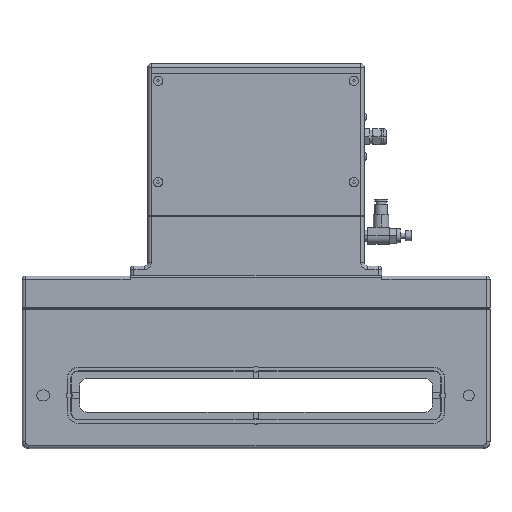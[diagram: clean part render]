
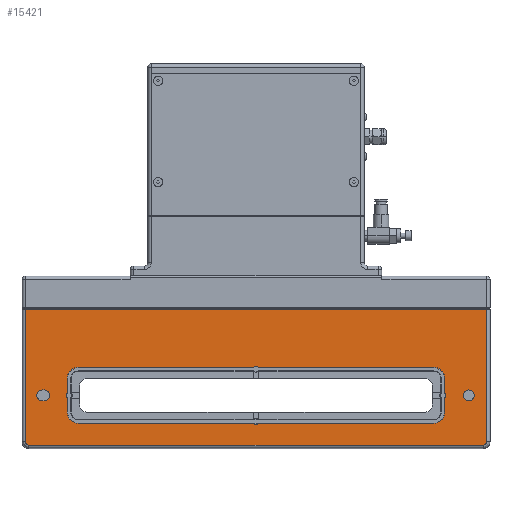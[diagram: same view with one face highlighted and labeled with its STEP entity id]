
A CAD part, top view. The second image highlights one B-rep face of the part: STEP entity #15421.
In plain terms, the highlighted planar face has unit normal (0, 0, 1).
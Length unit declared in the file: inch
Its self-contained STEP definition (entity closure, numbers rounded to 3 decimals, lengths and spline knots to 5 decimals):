
#136=DIRECTION('',(-1.,0.,0.));
#137=VECTOR('',#136,17.074);
#138=CARTESIAN_POINT('',(8.537,3.182,1.181));
#139=LINE('',#138,#137);
#140=DIRECTION('',(0.,1.,0.));
#141=VECTOR('',#140,4.9);
#142=CARTESIAN_POINT('',(8.537,-1.718,1.181));
#143=LINE('',#142,#141);
#144=CARTESIAN_POINT('',(8.412,-1.718,1.181));
#145=DIRECTION('',(0.,0.,1.));
#146=DIRECTION('',(0.,-1.,0.));
#147=AXIS2_PLACEMENT_3D('',#144,#145,#146);
#149=DIRECTION('',(1.,0.,0.));
#150=VECTOR('',#149,16.824);
#151=CARTESIAN_POINT('',(-8.412,-1.843,1.181));
#152=LINE('',#151,#150);
#153=CARTESIAN_POINT('',(-8.412,-1.718,1.181));
#154=DIRECTION('',(0.,0.,1.));
#155=DIRECTION('',(-1.,0.,0.));
#156=AXIS2_PLACEMENT_3D('',#153,#154,#155);
#158=DIRECTION('',(0.,-1.,0.));
#159=VECTOR('',#158,4.9);
#160=CARTESIAN_POINT('',(-8.537,3.182,1.181));
#161=LINE('',#160,#159);
#162=CARTESIAN_POINT('',(7.874,0.,1.181));
#163=DIRECTION('',(0.,0.,-1.));
#164=DIRECTION('',(-1.,0.,0.));
#165=AXIS2_PLACEMENT_3D('',#162,#163,#164);
#167=CARTESIAN_POINT('',(7.874,0.,1.181));
#168=DIRECTION('',(0.,0.,-1.));
#169=DIRECTION('',(1.,0.,0.));
#170=AXIS2_PLACEMENT_3D('',#167,#168,#169);
#172=CARTESIAN_POINT('',(-7.91,0.,1.181));
#173=DIRECTION('',(0.,0.,1.));
#174=DIRECTION('',(0.,1.,0.));
#175=AXIS2_PLACEMENT_3D('',#172,#173,#174);
#177=DIRECTION('',(1.,0.,0.));
#178=VECTOR('',#177,0.072);
#179=CARTESIAN_POINT('',(-7.91,-0.2,1.181));
#180=LINE('',#179,#178);
#181=CARTESIAN_POINT('',(-7.838,0.,1.181));
#182=DIRECTION('',(0.,0.,1.));
#183=DIRECTION('',(0.,-1.,0.));
#184=AXIS2_PLACEMENT_3D('',#181,#182,#183);
#186=DIRECTION('',(-1.,0.,0.));
#187=VECTOR('',#186,0.072);
#188=CARTESIAN_POINT('',(-7.838,0.2,1.181));
#189=LINE('',#188,#187);
#190=CARTESIAN_POINT('',(0.,0.967,1.181));
#191=DIRECTION('',(0.,0.,1.));
#192=DIRECTION('',(0.753,0.658,0.));
#193=AXIS2_PLACEMENT_3D('',#190,#191,#192);
#195=DIRECTION('',(1.,0.,0.));
#196=VECTOR('',#195,6.4825);
#197=CARTESIAN_POINT('',(-6.565,1.039,1.181));
#198=LINE('',#197,#196);
#199=CARTESIAN_POINT('',(-6.565,0.615,1.181));
#200=DIRECTION('',(0.,0.,-1.));
#201=DIRECTION('',(-1.,0.,0.));
#202=AXIS2_PLACEMENT_3D('',#199,#200,#201);
#204=DIRECTION('',(0.,1.,0.));
#205=VECTOR('',#204,0.5325);
#206=CARTESIAN_POINT('',(-6.989,0.0825,1.181));
#207=LINE('',#206,#205);
#208=DIRECTION('',(0.,1.,0.));
#209=VECTOR('',#208,0.5325);
#210=CARTESIAN_POINT('',(-6.989,-0.615,1.181));
#211=LINE('',#210,#209);
#212=CARTESIAN_POINT('',(-6.565,-0.615,1.181));
#213=DIRECTION('',(0.,0.,-1.));
#214=DIRECTION('',(0.,-1.,0.));
#215=AXIS2_PLACEMENT_3D('',#212,#213,#214);
#217=DIRECTION('',(-1.,0.,0.));
#218=VECTOR('',#217,6.4825);
#219=CARTESIAN_POINT('',(-0.0825,-1.039,1.181));
#220=LINE('',#219,#218);
#221=CARTESIAN_POINT('',(0.,-0.967,1.181));
#222=DIRECTION('',(0.,0.,1.));
#223=DIRECTION('',(-0.753,-0.658,0.));
#224=AXIS2_PLACEMENT_3D('',#221,#222,#223);
#226=DIRECTION('',(-1.,0.,0.));
#227=VECTOR('',#226,6.4825);
#228=CARTESIAN_POINT('',(6.565,-1.039,1.181));
#229=LINE('',#228,#227);
#230=CARTESIAN_POINT('',(6.565,-0.615,1.181));
#231=DIRECTION('',(0.,0.,-1.));
#232=DIRECTION('',(1.,0.,0.));
#233=AXIS2_PLACEMENT_3D('',#230,#231,#232);
#235=DIRECTION('',(0.,-1.,0.));
#236=VECTOR('',#235,0.5325);
#237=CARTESIAN_POINT('',(6.989,-0.0825,1.181));
#238=LINE('',#237,#236);
#239=DIRECTION('',(0.,-1.,0.));
#240=VECTOR('',#239,0.5325);
#241=CARTESIAN_POINT('',(6.989,0.615,1.181));
#242=LINE('',#241,#240);
#243=CARTESIAN_POINT('',(6.565,0.615,1.181));
#244=DIRECTION('',(0.,0.,-1.));
#245=DIRECTION('',(0.,1.,0.));
#246=AXIS2_PLACEMENT_3D('',#243,#244,#245);
#248=DIRECTION('',(1.,0.,0.));
#249=VECTOR('',#248,6.4825);
#250=CARTESIAN_POINT('',(0.0825,1.039,1.181));
#251=LINE('',#250,#249);
#11064=CARTESIAN_POINT('',(6.989,0.0825,1.181));
#11075=CARTESIAN_POINT('',(6.989,-0.0825,1.181));
#11097=CARTESIAN_POINT('',(6.917,0.,1.181));
#11098=DIRECTION('',(0.,0.,-1.));
#11099=DIRECTION('',(0.658,0.753,0.));
#11100=AXIS2_PLACEMENT_3D('',#11097,#11098,#11099);
#11578=CARTESIAN_POINT('',(-6.917,0.,1.181));
#11579=DIRECTION('',(0.,0.,-1.));
#11580=DIRECTION('',(-0.658,-0.753,0.));
#11581=AXIS2_PLACEMENT_3D('',#11578,#11579,#11580);
#11658=CARTESIAN_POINT('',(-6.989,0.0825,1.181));
#11696=CARTESIAN_POINT('',(-6.989,-0.0825,1.181));
#12412=CARTESIAN_POINT('',(6.565,1.039,1.181));
#12413=CARTESIAN_POINT('',(6.989,0.615,1.181));
#12414=VERTEX_POINT('',#12412);
#12415=VERTEX_POINT('',#12413);
#12420=CARTESIAN_POINT('',(6.989,-0.615,1.181));
#12421=CARTESIAN_POINT('',(6.565,-1.039,1.181));
#12422=VERTEX_POINT('',#12420);
#12423=VERTEX_POINT('',#12421);
#12428=CARTESIAN_POINT('',(-6.565,-1.039,1.181));
#12429=CARTESIAN_POINT('',(-6.989,-0.615,1.181));
#12430=VERTEX_POINT('',#12428);
#12431=VERTEX_POINT('',#12429);
#12436=CARTESIAN_POINT('',(-6.989,0.615,1.181));
#12437=CARTESIAN_POINT('',(-6.565,1.039,1.181));
#12438=VERTEX_POINT('',#12436);
#12439=VERTEX_POINT('',#12437);
#12448=CARTESIAN_POINT('',(7.674,0.,1.181));
#12449=CARTESIAN_POINT('',(8.074,0.,1.181));
#12450=VERTEX_POINT('',#12448);
#12451=VERTEX_POINT('',#12449);
#12460=CARTESIAN_POINT('',(-7.91,0.2,1.181));
#12461=CARTESIAN_POINT('',(-7.91,-0.2,1.181));
#12462=VERTEX_POINT('',#12460);
#12463=VERTEX_POINT('',#12461);
#12464=CARTESIAN_POINT('',(-7.838,-0.2,1.181));
#12465=VERTEX_POINT('',#12464);
#12466=CARTESIAN_POINT('',(-7.838,0.2,1.181));
#12467=VERTEX_POINT('',#12466);
#12500=CARTESIAN_POINT('',(8.412,-1.843,1.181));
#12501=CARTESIAN_POINT('',(8.537,-1.718,1.181));
#12502=VERTEX_POINT('',#12500);
#12503=VERTEX_POINT('',#12501);
#12508=CARTESIAN_POINT('',(-8.412,-1.843,1.181));
#12509=VERTEX_POINT('',#12508);
#12512=CARTESIAN_POINT('',(-8.537,-1.718,1.181));
#12513=VERTEX_POINT('',#12512);
#13004=CARTESIAN_POINT('',(-8.537,3.182,1.181));
#13006=VERTEX_POINT('',#13004);
#13018=CARTESIAN_POINT('',(8.537,3.182,1.181));
#13019=VERTEX_POINT('',#13018);
#14998=CARTESIAN_POINT('',(0.0825,1.039,1.181));
#14999=CARTESIAN_POINT('',(-0.0825,1.039,1.181));
#15000=VERTEX_POINT('',#14998);
#15001=VERTEX_POINT('',#14999);
#15002=CARTESIAN_POINT('',(-0.0825,-1.039,1.181));
#15003=CARTESIAN_POINT('',(0.0825,-1.039,1.181));
#15004=VERTEX_POINT('',#15002);
#15005=VERTEX_POINT('',#15003);
#15034=VERTEX_POINT('',#11064);
#15035=VERTEX_POINT('',#11075);
#15064=VERTEX_POINT('',#11658);
#15065=VERTEX_POINT('',#11696);
#15352=CARTESIAN_POINT('',(0.,0.,1.181));
#15353=DIRECTION('',(0.,0.,1.));
#15354=DIRECTION('',(1.,0.,0.));
#15355=AXIS2_PLACEMENT_3D('',#15352,#15353,#15354);
#15356=PLANE('',#15355);
#15358=ORIENTED_EDGE('',*,*,#15357,.F.);
#15360=ORIENTED_EDGE('',*,*,#15359,.F.);
#15362=ORIENTED_EDGE('',*,*,#15361,.F.);
#15364=ORIENTED_EDGE('',*,*,#15363,.F.);
#15366=ORIENTED_EDGE('',*,*,#15365,.F.);
#15368=ORIENTED_EDGE('',*,*,#15367,.F.);
#15369=EDGE_LOOP('',(#15358,#15360,#15362,#15364,#15366,#15368));
#15370=FACE_OUTER_BOUND('',#15369,.F.);
#15372=ORIENTED_EDGE('',*,*,#15371,.F.);
#15374=ORIENTED_EDGE('',*,*,#15373,.F.);
#15375=EDGE_LOOP('',(#15372,#15374));
#15376=FACE_BOUND('',#15375,.F.);
#15378=ORIENTED_EDGE('',*,*,#15377,.T.);
#15380=ORIENTED_EDGE('',*,*,#15379,.T.);
#15382=ORIENTED_EDGE('',*,*,#15381,.T.);
#15384=ORIENTED_EDGE('',*,*,#15383,.T.);
#15385=EDGE_LOOP('',(#15378,#15380,#15382,#15384));
#15386=FACE_BOUND('',#15385,.F.);
#15388=ORIENTED_EDGE('',*,*,#15387,.T.);
#15390=ORIENTED_EDGE('',*,*,#15389,.F.);
#15392=ORIENTED_EDGE('',*,*,#15391,.F.);
#15394=ORIENTED_EDGE('',*,*,#15393,.F.);
#15396=ORIENTED_EDGE('',*,*,#15395,.F.);
#15398=ORIENTED_EDGE('',*,*,#15397,.F.);
#15400=ORIENTED_EDGE('',*,*,#15399,.F.);
#15402=ORIENTED_EDGE('',*,*,#15401,.F.);
#15404=ORIENTED_EDGE('',*,*,#15403,.T.);
#15406=ORIENTED_EDGE('',*,*,#15405,.F.);
#15408=ORIENTED_EDGE('',*,*,#15407,.F.);
#15410=ORIENTED_EDGE('',*,*,#15409,.F.);
#15412=ORIENTED_EDGE('',*,*,#15411,.F.);
#15414=ORIENTED_EDGE('',*,*,#15413,.F.);
#15416=ORIENTED_EDGE('',*,*,#15415,.F.);
#15418=ORIENTED_EDGE('',*,*,#15417,.F.);
#15419=EDGE_LOOP('',(#15388,#15390,#15392,#15394,#15396,#15398,#15400,#15402,
#15404,#15406,#15408,#15410,#15412,#15414,#15416,#15418));
#15420=FACE_BOUND('',#15419,.F.);
#148=CIRCLE('',#147,0.125);
#157=CIRCLE('',#156,0.125);
#166=CIRCLE('',#165,0.2);
#171=CIRCLE('',#170,0.2);
#176=CIRCLE('',#175,0.2);
#185=CIRCLE('',#184,0.2);
#194=CIRCLE('',#193,0.1095);
#203=CIRCLE('',#202,0.424);
#216=CIRCLE('',#215,0.424);
#225=CIRCLE('',#224,0.1095);
#234=CIRCLE('',#233,0.424);
#247=CIRCLE('',#246,0.424);
#11101=CIRCLE('',#11100,0.1095);
#11582=CIRCLE('',#11581,0.1095);
#15357=EDGE_CURVE('',#13019,#13006,#139,.T.);
#15359=EDGE_CURVE('',#12503,#13019,#143,.T.);
#15361=EDGE_CURVE('',#12502,#12503,#148,.T.);
#15363=EDGE_CURVE('',#12509,#12502,#152,.T.);
#15365=EDGE_CURVE('',#12513,#12509,#157,.T.);
#15367=EDGE_CURVE('',#13006,#12513,#161,.T.);
#15371=EDGE_CURVE('',#12450,#12451,#166,.T.);
#15373=EDGE_CURVE('',#12451,#12450,#171,.T.);
#15377=EDGE_CURVE('',#12462,#12463,#176,.T.);
#15379=EDGE_CURVE('',#12463,#12465,#180,.T.);
#15381=EDGE_CURVE('',#12465,#12467,#185,.T.);
#15383=EDGE_CURVE('',#12467,#12462,#189,.T.);
#15387=EDGE_CURVE('',#15000,#15001,#194,.T.);
#15389=EDGE_CURVE('',#12439,#15001,#198,.T.);
#15391=EDGE_CURVE('',#12438,#12439,#203,.T.);
#15393=EDGE_CURVE('',#15064,#12438,#207,.T.);
#15395=EDGE_CURVE('',#15065,#15064,#11582,.T.);
#15397=EDGE_CURVE('',#12431,#15065,#211,.T.);
#15399=EDGE_CURVE('',#12430,#12431,#216,.T.);
#15401=EDGE_CURVE('',#15004,#12430,#220,.T.);
#15403=EDGE_CURVE('',#15004,#15005,#225,.T.);
#15405=EDGE_CURVE('',#12423,#15005,#229,.T.);
#15407=EDGE_CURVE('',#12422,#12423,#234,.T.);
#15409=EDGE_CURVE('',#15035,#12422,#238,.T.);
#15411=EDGE_CURVE('',#15034,#15035,#11101,.T.);
#15413=EDGE_CURVE('',#12415,#15034,#242,.T.);
#15415=EDGE_CURVE('',#12414,#12415,#247,.T.);
#15417=EDGE_CURVE('',#15000,#12414,#251,.T.);
#15421=ADVANCED_FACE('',(#15370,#15376,#15386,#15420),#15356,.T.);
